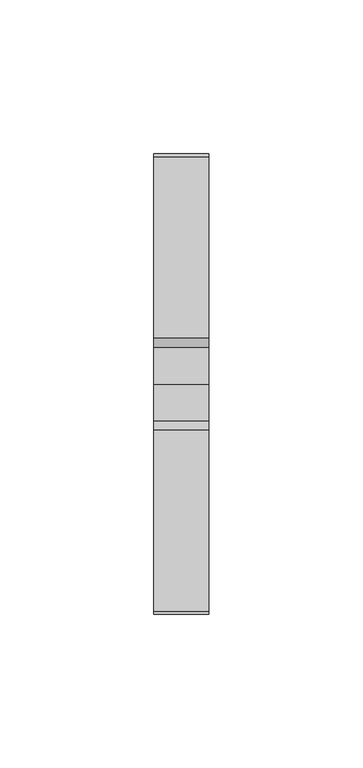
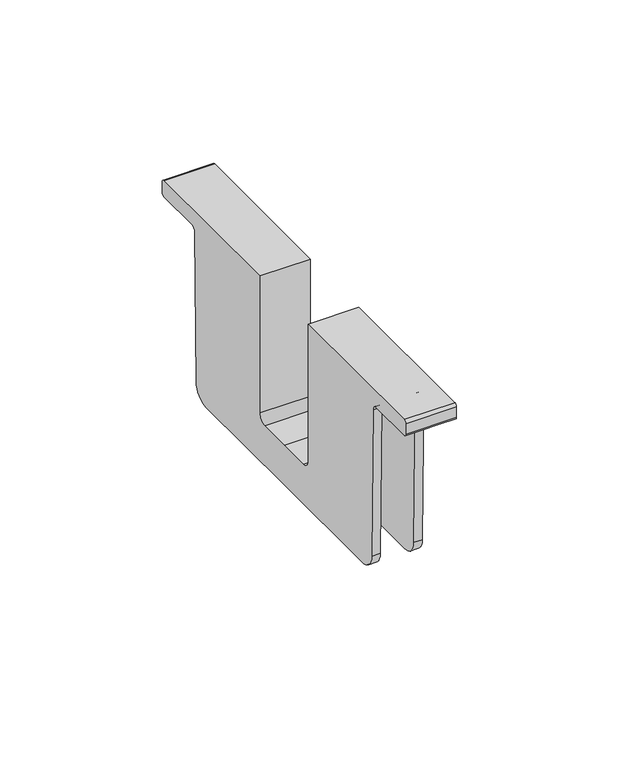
"""IFC4 building model written with IfcOpenShell, lengths in millimetres: furniture geometry, Vitra-Joyn_2-Accesories_rfa : Joyn 2 Platform - Central screen."""

from ifc_helpers import new_model, si_unit, frame, origin, place, context, project, spatial, polyline, circle_curve, source, transform, mapped, element, save
from ifc_brep_helpers import plane_surface, cylinder_surface, revolved_surface, advanced_brep


def furniture_08cc426a(model_context):
    return source(origin(), model_context, "Body", "AdvancedBrep", [
        advanced_brep(
        [(-291.0, 73.9844222, 740.0000042), (-291.0, 74.9844222, 741.0000042), (-291.0, 74.9844222, 744.999986), (-291.0, 73.9844222, 745.999986), (-291.0, 14.9999234, 745.999986), (-291.0, 14.9999234, 694.447068), (-291.0, 11.9999234, 691.447068), (-291.0, 0.0, 691.447068), (-291.0, -11.9999234, 691.447068), (-291.0, -14.9999234, 694.447068), (-291.0, -14.9999234, 745.999986), (-291.0, -73.9844222, 745.999986), (-291.0, -74.9844222, 744.999986), (-291.0, -74.9844222, 741.0000042), (-291.0, -73.9844222, 740.0000042), (-291.0, -56.9199376, 740.0000042), (-291.0, -54.9201688, 738.0304169), (-291.0, -54.0742678, 682.4087535), (-291.0, -48.0749615, 676.4999917), (-291.0, 0.0, 676.4999917), (-291.0, 48.0749615, 676.4999917), (-291.0, 54.0742678, 682.4087535), (-291.0, 54.9201688, 738.0304169), (-291.0, 56.9199376, 740.0000042), (-309.0, 73.9844222, 740.0000042), (-309.0, 56.9199376, 740.0000042), (-309.0, 54.9201688, 738.0304169), (-309.0, 54.0742678, 682.4087535), (-309.0, 48.0749615, 676.4999917), (-309.0, 0.0, 676.4999917), (-309.0, -48.0749615, 676.4999917), (-309.0, -54.0742678, 682.4087535), (-309.0, -54.9201688, 738.0304169), (-309.0, -56.9199376, 740.0000042), (-309.0, -73.9844222, 740.0000042), (-309.0, -74.9844222, 741.0000042), (-309.0, -74.9844222, 744.999986), (-309.0, -73.9844222, 745.999986), (-309.0, -14.9999234, 745.999986), (-309.0, -14.9999234, 694.447068), (-309.0, -11.9999234, 691.447068), (-309.0, 0.0, 691.447068), (-309.0, 11.9999234, 691.447068), (-309.0, 14.9999234, 694.447068), (-309.0, 14.9999234, 745.999986), (-309.0, 73.9844222, 745.999986), (-309.0, 74.9844222, 744.999986), (-309.0, 74.9844222, 741.0000042), (-306.0, -56.9199376, 740.0000042), (-306.0, -71.9492912, 740.0000042), (-294.0, -71.9492912, 740.0000042), (-294.0, -56.9199376, 740.0000042), (-294.0, -54.9201688, 738.0304169), (-306.0, -54.9201688, 738.0304169), (-294.0, -54.0742678, 682.4087535), (-306.0, -54.0742678, 682.4087535), (-294.0, -48.0749615, 676.4999917), (-306.0, -48.0749615, 676.4999917), (-294.0, 0.0, 676.4999917), (-306.0, 0.0, 676.4999917), (-294.0, 48.0749615, 676.4999917), (-306.0, 48.0749615, 676.4999917), (-294.0, 54.0742678, 682.4087535), (-306.0, 54.0742678, 682.4087535), (-294.0, 54.9201688, 738.0304169), (-306.0, 54.9201688, 738.0304169), (-294.0, 56.9199376, 740.0000042), (-306.0, 56.9199376, 740.0000042), (-294.0, 71.9492912, 740.0000042), (-306.0, 71.9492912, 740.0000042), (-294.0, -71.9492912, 743.4999863), (-294.0, -17.4999234, 743.4999863), (-294.0, -17.4999234, 694.447068), (-294.0, -11.9999234, 688.947068), (-294.0, 0.0, 688.947068), (-294.0, 11.9999234, 688.947068), (-294.0, 17.4999234, 694.447068), (-294.0, 17.4999234, 743.4999863), (-294.0, 71.9492912, 743.4999863), (-306.0, 71.9492912, 743.4999863), (-306.0, 17.4999234, 743.4999863), (-306.0, 17.4999234, 694.447068), (-306.0, 11.9999234, 688.947068), (-306.0, 0.0, 688.947068), (-306.0, -11.9999234, 688.947068), (-306.0, -17.4999234, 694.447068), (-306.0, -17.4999234, 743.4999863), (-306.0, -71.9492912, 743.4999863)],
        [
            (0, 1, circle_curve(frame((-291.0, 73.9844222, 741.0000042), z_axis=(1.0, 0.0, 0.0), x_axis=(0.0, -1.0, 0.0)), 1.0)),
            (1, 2),
            (2, 3, circle_curve(frame((-291.0, 73.9844222, 744.999986), z_axis=(1.0, 0.0, 0.0), x_axis=(0.0, -1.0, 0.0)), 1.0)),
            (3, 4),
            (4, 5),
            (5, 6, circle_curve(frame((-291.0, 11.9999234, 694.447068), z_axis=(-1.0, 0.0, 0.0), x_axis=(0.0, -1.0, 0.0)), 3.0)),
            (6, 7),
            (7, 8),
            (8, 9, circle_curve(frame((-291.0, -11.9999234, 694.447068), z_axis=(-1.0, 0.0, 0.0), x_axis=(0.0, 1.0, 0.0)), 3.0)),
            (9, 10),
            (10, 11),
            (11, 12, circle_curve(frame((-291.0, -73.9844222, 744.999986), z_axis=(1.0, 0.0, 0.0), x_axis=(0.0, 1.0, 0.0)), 1.0)),
            (12, 13),
            (13, 14, circle_curve(frame((-291.0, -73.9844222, 741.0000042), z_axis=(1.0, 0.0, 0.0), x_axis=(0.0, 1.0, 0.0)), 1.0)),
            (14, 15),
            (15, 16, circle_curve(frame((-291.0, -56.9199376, 738.0000042), z_axis=(-1.0, 0.0, 0.0), x_axis=(0.0, 1.0, 0.0)), 2.0)),
            (16, 17),
            (17, 18, circle_curve(frame((-291.0, -48.0749615, 682.4999917), z_axis=(1.0, 0.0, 0.0), x_axis=(0.0, 1.0, 0.0)), 6.0)),
            (18, 19),
            (19, 20),
            (20, 21, circle_curve(frame((-291.0, 48.0749615, 682.4999917), z_axis=(1.0, 0.0, 0.0), x_axis=(0.0, -1.0, 0.0)), 6.0)),
            (21, 22),
            (22, 23, circle_curve(frame((-291.0, 56.9199376, 738.0000042), z_axis=(-1.0, 0.0, 0.0), x_axis=(0.0, -1.0, 0.0)), 2.0)),
            (23, 0),
            (24, 25),
            (25, 26, circle_curve(frame((-309.0, 56.9199376, 738.0000042), z_axis=(1.0, 0.0, 0.0), x_axis=(0.0, -1.0, 0.0)), 2.0)),
            (26, 27),
            (27, 28, circle_curve(frame((-309.0, 48.0749615, 682.4999917), z_axis=(-1.0, 0.0, 0.0), x_axis=(0.0, -1.0, 0.0)), 6.0)),
            (28, 29),
            (29, 30),
            (30, 31, circle_curve(frame((-309.0, -48.0749615, 682.4999917), z_axis=(-1.0, 0.0, 0.0), x_axis=(0.0, 1.0, 0.0)), 6.0)),
            (31, 32),
            (32, 33, circle_curve(frame((-309.0, -56.9199376, 738.0000042), z_axis=(1.0, 0.0, 0.0), x_axis=(0.0, 1.0, 0.0)), 2.0)),
            (33, 34),
            (34, 35, circle_curve(frame((-309.0, -73.9844222, 741.0000042), z_axis=(-1.0, 0.0, 0.0), x_axis=(0.0, 1.0, 0.0)), 1.0)),
            (35, 36),
            (36, 37, circle_curve(frame((-309.0, -73.9844222, 744.999986), z_axis=(-1.0, 0.0, 0.0), x_axis=(0.0, 1.0, 0.0)), 1.0)),
            (37, 38),
            (38, 39),
            (39, 40, circle_curve(frame((-309.0, -11.9999234, 694.447068), z_axis=(1.0, 0.0, 0.0), x_axis=(0.0, 1.0, 0.0)), 3.0)),
            (40, 41),
            (41, 42),
            (42, 43, circle_curve(frame((-309.0, 11.9999234, 694.447068), z_axis=(1.0, 0.0, 0.0), x_axis=(0.0, -1.0, 0.0)), 3.0)),
            (43, 44),
            (44, 45),
            (45, 46, circle_curve(frame((-309.0, 73.9844222, 744.999986), z_axis=(-1.0, 0.0, 0.0), x_axis=(0.0, -1.0, 0.0)), 1.0)),
            (46, 47),
            (47, 24, circle_curve(frame((-309.0, 73.9844222, 741.0000042), z_axis=(-1.0, 0.0, 0.0), x_axis=(0.0, -1.0, 0.0)), 1.0)),
            (0, 24),
            (47, 1),
            (46, 2),
            (45, 3),
            (44, 4),
            (43, 5),
            (42, 6),
            (41, 7),
            (40, 8),
            (39, 9),
            (38, 10),
            (37, 11),
            (36, 12),
            (35, 13),
            (34, 14),
            (33, 48),
            (48, 49),
            (49, 50),
            (50, 51),
            (51, 15),
            (51, 52, circle_curve(frame((-294.0, -56.9199376, 738.0000042), z_axis=(-1.0, 0.0, 0.0), x_axis=(0.0, 1.0, 0.0)), 2.0)),
            (52, 16),
            (32, 53),
            (53, 48, circle_curve(frame((-306.0, -56.9199376, 738.0000042), z_axis=(1.0, 0.0, 0.0), x_axis=(0.0, 1.0, 0.0)), 2.0)),
            (52, 54),
            (54, 17),
            (31, 55),
            (55, 53),
            (54, 56, circle_curve(frame((-294.0, -48.0749615, 682.4999917), z_axis=(1.0, 0.0, 0.0), x_axis=(0.0, 1.0, 0.0)), 6.0)),
            (56, 18),
            (30, 57),
            (57, 55, circle_curve(frame((-306.0, -48.0749615, 682.4999917), z_axis=(-1.0, 0.0, 0.0), x_axis=(0.0, 1.0, 0.0)), 6.0)),
            (56, 58),
            (58, 19),
            (29, 59),
            (59, 57),
            (58, 60),
            (60, 20),
            (28, 61),
            (61, 59),
            (60, 62, circle_curve(frame((-294.0, 48.0749615, 682.4999917), z_axis=(1.0, 0.0, 0.0), x_axis=(0.0, -1.0, 0.0)), 6.0)),
            (62, 21),
            (27, 63),
            (63, 61, circle_curve(frame((-306.0, 48.0749615, 682.4999917), z_axis=(-1.0, 0.0, 0.0), x_axis=(0.0, -1.0, 0.0)), 6.0)),
            (62, 64),
            (64, 22),
            (26, 65),
            (65, 63),
            (64, 66, circle_curve(frame((-294.0, 56.9199376, 738.0000042), z_axis=(-1.0, 0.0, 0.0), x_axis=(0.0, -1.0, 0.0)), 2.0)),
            (66, 23),
            (25, 67),
            (67, 65, circle_curve(frame((-306.0, 56.9199376, 738.0000042), z_axis=(1.0, 0.0, 0.0), x_axis=(0.0, -1.0, 0.0)), 2.0)),
            (66, 68),
            (68, 69),
            (69, 67),
            (50, 70),
            (70, 71),
            (71, 72),
            (72, 73, circle_curve(frame((-294.0, -11.9999234, 694.447068), z_axis=(1.0, 0.0, 0.0), x_axis=(0.0, 1.0, 0.0)), 5.5)),
            (73, 74),
            (74, 75),
            (75, 76, circle_curve(frame((-294.0, 11.9999234, 694.447068), z_axis=(1.0, 0.0, 0.0), x_axis=(0.0, -1.0, 0.0)), 5.5)),
            (76, 77),
            (77, 78),
            (78, 68),
            (69, 79),
            (79, 80),
            (80, 81),
            (81, 82, circle_curve(frame((-306.0, 11.9999234, 694.447068), z_axis=(-1.0, 0.0, 0.0), x_axis=(0.0, -1.0, 0.0)), 5.5)),
            (82, 83),
            (83, 84),
            (84, 85, circle_curve(frame((-306.0, -11.9999234, 694.447068), z_axis=(-1.0, 0.0, 0.0), x_axis=(0.0, 1.0, 0.0)), 5.5)),
            (85, 86),
            (86, 87),
            (87, 49),
            (87, 70),
            (86, 71),
            (85, 72),
            (84, 73),
            (83, 74),
            (82, 75),
            (81, 76),
            (80, 77),
            (79, 78),
        ],
        [
            plane_surface(frame((-291.0, 72.9844222, 741.0000042), z_axis=(1.0, 0.0, 0.0), x_axis=(0.0, 0.0, -1.0))),
            plane_surface(frame((-309.0, 72.9844222, 741.0000042), z_axis=(-1.0, 0.0, 0.0), x_axis=(0.0, 0.0, 1.0))),
            cylinder_surface(frame((-309.0, 73.9844222, 741.0000042), z_axis=(1.0, 0.0, 0.0), x_axis=(0.0, -1.0, 0.0)), 1.0),
            plane_surface(frame((-291.0, 74.9844222, 741.0000042), z_axis=(0.0, 1.0, 0.0), x_axis=(-1.0, 0.0, 0.0))),
            cylinder_surface(frame((-309.0, 73.9844222, 744.999986), z_axis=(1.0, 0.0, 0.0), x_axis=(0.0, -1.0, 0.0)), 1.0),
            plane_surface(frame((-291.0, 73.9844222, 745.999986), z_axis=(0.0, 0.0, 1.0), x_axis=(-1.0, 0.0, 0.0))),
            plane_surface(frame((-291.0, 14.9999234, 745.999986), z_axis=(0.0, -1.0, 0.0), x_axis=(-1.0, 0.0, 0.0))),
            revolved_surface(polyline([(-309.0, 8.9999234, 694.447068), (-291.0, 8.9999234, 694.447068)]), (-309.0, 11.9999234, 694.447068), (-1.0, 0.0, 0.0)),
            plane_surface(frame((-291.0, 11.9999234, 691.447068), z_axis=(0.0, 0.0, 1.0), x_axis=(-1.0, 0.0, 0.0))),
            plane_surface(frame((-291.0, 0.0, 691.447068), z_axis=(0.0, 0.0, 1.0), x_axis=(-1.0, 0.0, 0.0))),
            revolved_surface(polyline([(-309.0, -8.9999234, 694.447068), (-291.0, -8.9999234, 694.447068)]), (-309.0, -11.9999234, 694.447068), (-1.0, 0.0, 0.0)),
            plane_surface(frame((-291.0, -14.9999234, 694.447068), z_axis=(0.0, 1.0, 0.0), x_axis=(-1.0, 0.0, 0.0))),
            plane_surface(frame((-291.0, -14.9999234, 745.999986), z_axis=(0.0, 0.0, 1.0), x_axis=(-1.0, 0.0, 0.0))),
            cylinder_surface(frame((-309.0, -73.9844222, 744.999986), z_axis=(1.0, 0.0, 0.0), x_axis=(0.0, 1.0, 0.0)), 1.0),
            plane_surface(frame((-291.0, -74.9844222, 744.999986), z_axis=(0.0, -1.0, 0.0), x_axis=(-1.0, 0.0, 0.0))),
            cylinder_surface(frame((-309.0, -73.9844222, 741.0000042), z_axis=(1.0, 0.0, 0.0), x_axis=(0.0, 1.0, 0.0)), 1.0),
            plane_surface(frame((-291.0, -73.9844222, 740.0000042), z_axis=(0.0, 0.0, -1.0), x_axis=(-1.0, 0.0, 0.0))),
            revolved_surface(polyline([(-294.0, -54.9199376, 738.0000042), (-291.0, -54.9199376, 738.0000042)]), (-309.0, -56.9199376, 738.0000042), (-1.0, 0.0, 0.0)),
            revolved_surface(polyline([(-309.0, -54.9199376, 738.0000042), (-306.0, -54.9199376, 738.0000042)]), (-309.0, -56.9199376, 738.0000042), (-1.0, 0.0, 0.0)),
            plane_surface(frame((-291.0, -54.9201688, 738.0304169), z_axis=(0.0, -0.9998843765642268, -0.015206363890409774), x_axis=(-1.0, 0.0, 0.0))),
            cylinder_surface(frame((-309.0, -48.0749615, 682.4999917), z_axis=(1.0, 0.0, 0.0), x_axis=(0.0, 1.0, 0.0)), 6.0),
            plane_surface(frame((-291.0, -48.0749615, 676.4999917), z_axis=(0.0, 0.0, -1.0), x_axis=(-1.0, 0.0, 0.0))),
            plane_surface(frame((-291.0, 0.0, 676.4999917), z_axis=(0.0, 0.0, -1.0), x_axis=(-1.0, 0.0, 0.0))),
            cylinder_surface(frame((-309.0, 48.0749615, 682.4999917), z_axis=(1.0, 0.0, 0.0), x_axis=(0.0, -1.0, 0.0)), 6.0),
            plane_surface(frame((-291.0, 54.0742678, 682.4087535), z_axis=(0.0, 0.9998843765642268, -0.015206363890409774), x_axis=(-1.0, 0.0, 0.0))),
            revolved_surface(polyline([(-294.0, 54.9199376, 738.0000042), (-291.0, 54.9199376, 738.0000042)]), (-309.0, 56.9199376, 738.0000042), (-1.0, 0.0, 0.0)),
            revolved_surface(polyline([(-309.0, 54.9199376, 738.0000042), (-306.0, 54.9199376, 738.0000042)]), (-309.0, 56.9199376, 738.0000042), (-1.0, 0.0, 0.0)),
            plane_surface(frame((-291.0, 56.9199376, 740.0000042), z_axis=(0.0, 0.0, -1.0), x_axis=(-1.0, 0.0, 0.0))),
            plane_surface(frame((-294.0, 71.9492912, 740.9999751), z_axis=(-1.0, 0.0, 0.0), x_axis=(0.0, 0.0, 1.0))),
            plane_surface(frame((-306.0, 71.9492912, 740.9999751), z_axis=(1.0, 0.0, 0.0), x_axis=(0.0, 0.0, -1.0))),
            plane_surface(frame((-294.0, -71.9492912, 743.4999863), z_axis=(0.0, 1.0, 0.0), x_axis=(-1.0, 0.0, 0.0))),
            plane_surface(frame((-294.0, -17.4999234, 743.4999863), z_axis=(0.0, 0.0, -1.0), x_axis=(-1.0, 0.0, 0.0))),
            plane_surface(frame((-294.0, -17.4999234, 694.447068), z_axis=(0.0, -1.0, 0.0), x_axis=(-1.0, 0.0, 0.0))),
            cylinder_surface(frame((-306.0, -11.9999234, 694.447068), z_axis=(-1.0, 0.0, 0.0), x_axis=(0.0, 1.0, 0.0)), 5.5),
            plane_surface(frame((-294.0, 0.0, 688.947068), z_axis=(0.0, 0.0, -1.0), x_axis=(-1.0, 0.0, 0.0))),
            plane_surface(frame((-294.0, 11.9999234, 688.947068), z_axis=(0.0, 0.0, -1.0), x_axis=(-1.0, 0.0, 0.0))),
            cylinder_surface(frame((-306.0, 11.9999234, 694.447068), z_axis=(-1.0, 0.0, 0.0), x_axis=(0.0, -1.0, 0.0)), 5.5),
            plane_surface(frame((-294.0, 17.4999234, 743.4999863), z_axis=(0.0, 1.0, 0.0), x_axis=(-1.0, 0.0, 0.0))),
            plane_surface(frame((-294.0, 71.9492912, 743.4999863), z_axis=(0.0, 0.0, -1.0), x_axis=(-1.0, 0.0, 0.0))),
            plane_surface(frame((-294.0, 71.9492912, 740.0000042), z_axis=(0.0, -1.0, 0.0), x_axis=(-1.0, 0.0, 0.0))),
        ],
        [
            (0, [[1, 2, 3, 4, 5, 6, 7, 8, 9, 10, 11, 12, 13, 14, 15, 16, 17, 18, 19, 20, 21, 22, 23, 24]]),
            (1, [[25, 26, 27, 28, 29, 30, 31, 32, 33, 34, 35, 36, 37, 38, 39, 40, 41, 42, 43, 44, 45, 46, 47, 48]]),
            (2, [[-1, 49, -48, 50]]),
            (3, [[-2, -50, -47, 51]]),
            (4, [[-3, -51, -46, 52]]),
            (5, [[-4, -52, -45, 53]]),
            (6, [[-5, -53, -44, 54]]),
            (7, [[-6, -54, -43, 55]]),
            (8, [[-7, -55, -42, 56]]),
            (9, [[-8, -56, -41, 57]]),
            (10, [[-9, -57, -40, 58]]),
            (11, [[-10, -58, -39, 59]]),
            (12, [[-11, -59, -38, 60]]),
            (13, [[-12, -60, -37, 61]]),
            (14, [[-13, -61, -36, 62]]),
            (15, [[-14, -62, -35, 63]]),
            (16, [[-15, -63, -34, 64, 65, 66, 67, 68]]),
            (17, [[-16, -68, 69, 70]]),
            (18, [[-33, 71, 72, -64]]),
            (19, [[-17, -70, 73, 74]]),
            (19, [[-32, 75, 76, -71]]),
            (20, [[-18, -74, 77, 78]]),
            (20, [[-31, 79, 80, -75]]),
            (21, [[-19, -78, 81, 82]]),
            (21, [[-30, 83, 84, -79]]),
            (22, [[-20, -82, 85, 86]]),
            (22, [[-29, 87, 88, -83]]),
            (23, [[-21, -86, 89, 90]]),
            (23, [[-28, 91, 92, -87]]),
            (24, [[-22, -90, 93, 94]]),
            (24, [[-27, 95, 96, -91]]),
            (25, [[-23, -94, 97, 98]]),
            (26, [[-26, 99, 100, -95]]),
            (27, [[-24, -98, 101, 102, 103, -99, -25, -49]]),
            (28, [[104, 105, 106, 107, 108, 109, 110, 111, 112, 113, -101, -97, -93, -89, -85, -81, -77, -73, -69, -67]]),
            (29, [[114, 115, 116, 117, 118, 119, 120, 121, 122, 123, -65, -72, -76, -80, -84, -88, -92, -96, -100, -103]]),
            (30, [[-104, -66, -123, 124]]),
            (31, [[-105, -124, -122, 125]]),
            (32, [[-106, -125, -121, 126]]),
            (33, [[-107, -126, -120, 127]]),
            (34, [[-108, -127, -119, 128]]),
            (35, [[-109, -128, -118, 129]]),
            (36, [[-110, -129, -117, 130]]),
            (37, [[-111, -130, -116, 131]]),
            (38, [[-112, -131, -115, 132]]),
            (39, [[-113, -132, -114, -102]]),
        ],
    ),
    ])


if __name__ == "__main__":
    model = new_model("IFC4")
    model_context = context("Model", 3, world=origin())
    ifc_project = project(units=[si_unit("LENGTHUNIT", "METRE", prefix="MILLI")], contexts=[model_context])
    site = spatial("IfcSite", under=ifc_project)
    building = spatial("IfcBuilding", under=site)
    placement = place(None, origin())
    furniture_shape = furniture_08cc426a(model_context)
    element("IfcFurniture", 1, ObjectType="Vitra-Joyn_2-Accesories_rfa : Joyn 2 Platform - Central screen", at=placement, inside=building, context=model_context, shape_type="MappedRepresentation", body=[
        mapped(furniture_shape, transform((0.0, 0.0, 0.0), x_axis=(1.0, 0.0, 0.0), y_axis=(0.0, 1.0, 0.0), z_axis=(0.0, 0.0, 1.0))),
    ])
    save(model, "model.ifc")
